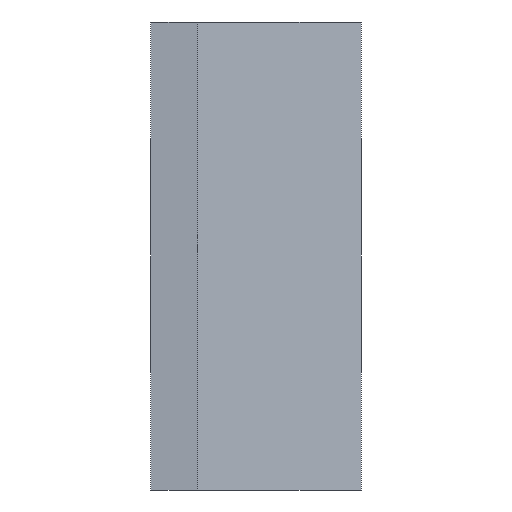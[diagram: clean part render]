
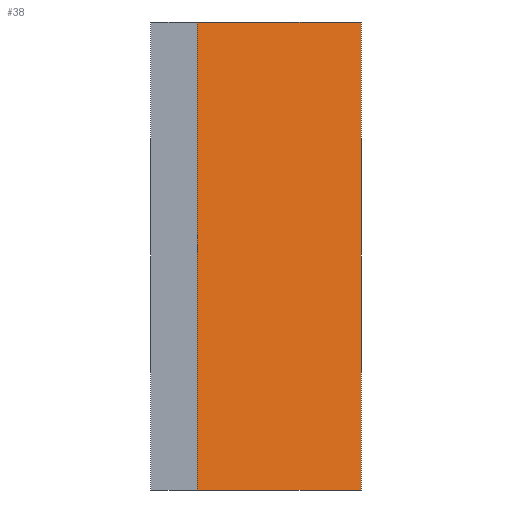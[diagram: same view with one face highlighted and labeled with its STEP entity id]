
A CAD part, front view. The second image highlights one B-rep face of the part: STEP entity #38.
In plain terms, the highlighted planar face has unit normal (0.496, -0.868, 0) as drawn and (0.496, 0.868, 0) by its records, which use the part's own axes.
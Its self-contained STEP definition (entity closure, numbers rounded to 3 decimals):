
#38=ADVANCED_FACE('',(#50),#428,.T.);
#50=FACE_OUTER_BOUND('',#63,.T.);
#63=EDGE_LOOP('',(#90,#91,#92,#93));
#90=ORIENTED_EDGE('',*,*,#303,.T.);
#91=ORIENTED_EDGE('',*,*,#304,.T.);
#92=ORIENTED_EDGE('',*,*,#305,.T.);
#93=ORIENTED_EDGE('',*,*,#299,.F.);
#151=PCURVE('',#427,#211);
#156=PCURVE('',#428,#216);
#157=PCURVE('',#428,#217);
#158=PCURVE('',#428,#218);
#159=PCURVE('',#428,#219);
#163=PCURVE('',#429,#223);
#177=PCURVE('',#432,#237);
#186=PCURVE('',#433,#246);
#211=DEFINITIONAL_REPRESENTATION('',(#343),#840);
#216=DEFINITIONAL_REPRESENTATION('',(#350),#840);
#217=DEFINITIONAL_REPRESENTATION('',(#352),#840);
#218=DEFINITIONAL_REPRESENTATION('',(#354),#840);
#219=DEFINITIONAL_REPRESENTATION('',(#355),#840);
#223=DEFINITIONAL_REPRESENTATION('',(#362),#840);
#237=DEFINITIONAL_REPRESENTATION('',(#381),#840);
#246=DEFINITIONAL_REPRESENTATION('',(#390),#840);
#269=SURFACE_CURVE('',#342,(#151,#159),.PCURVE_S1.);
#273=SURFACE_CURVE('',#349,(#156,#177),.PCURVE_S1.);
#274=SURFACE_CURVE('',#351,(#157,#163),.PCURVE_S1.);
#275=SURFACE_CURVE('',#353,(#158,#186),.PCURVE_S1.);
#299=EDGE_CURVE('',#410,#411,#269,.T.);
#303=EDGE_CURVE('',#410,#412,#273,.T.);
#304=EDGE_CURVE('',#412,#413,#274,.T.);
#305=EDGE_CURVE('',#413,#411,#275,.T.);
#342=B_SPLINE_CURVE_WITH_KNOTS('',1,(#625,#626),.UNSPECIFIED.,.F.,.F.,(2,
2),(0.,10.),.UNSPECIFIED.);
#343=B_SPLINE_CURVE_WITH_KNOTS('',1,(#627,#628),.UNSPECIFIED.,.F.,.F.,(2,
2),(0.,10.),.UNSPECIFIED.);
#349=B_SPLINE_CURVE_WITH_KNOTS('',1,(#683,#684),.UNSPECIFIED.,.F.,.F.,(2,
2),(-13.106,-9.),.UNSPECIFIED.);
#350=B_SPLINE_CURVE_WITH_KNOTS('',1,(#685,#686),.UNSPECIFIED.,.F.,.F.,(2,
2),(-13.106,-9.),.UNSPECIFIED.);
#351=B_SPLINE_CURVE_WITH_KNOTS('',1,(#687,#688),.UNSPECIFIED.,.F.,.F.,(2,
2),(0.,10.),.UNSPECIFIED.);
#352=B_SPLINE_CURVE_WITH_KNOTS('',1,(#689,#690),.UNSPECIFIED.,.F.,.F.,(2,
2),(0.,10.),.UNSPECIFIED.);
#353=B_SPLINE_CURVE_WITH_KNOTS('',1,(#691,#692),.UNSPECIFIED.,.F.,.F.,(2,
2),(9.,13.106),.UNSPECIFIED.);
#354=B_SPLINE_CURVE_WITH_KNOTS('',1,(#693,#694),.UNSPECIFIED.,.F.,.F.,(2,
2),(9.,13.106),.UNSPECIFIED.);
#355=B_SPLINE_CURVE_WITH_KNOTS('',1,(#695,#696),.UNSPECIFIED.,.F.,.F.,(2,
2),(0.,10.),.UNSPECIFIED.);
#362=B_SPLINE_CURVE_WITH_KNOTS('',1,(#709,#710),.UNSPECIFIED.,.F.,.F.,(2,
2),(0.,10.),.UNSPECIFIED.);
#381=B_SPLINE_CURVE_WITH_KNOTS('',1,(#791,#792),.UNSPECIFIED.,.F.,.F.,(2,
2),(-13.106,-9.),.UNSPECIFIED.);
#390=B_SPLINE_CURVE_WITH_KNOTS('',1,(#809,#810),.UNSPECIFIED.,.F.,.F.,(2,
2),(9.,13.106),.UNSPECIFIED.);
#410=VERTEX_POINT('',#565);
#411=VERTEX_POINT('',#566);
#412=VERTEX_POINT('',#567);
#413=VERTEX_POINT('',#568);
#427=PLANE('',#479);
#428=PLANE('',#480);
#429=PLANE('',#481);
#432=PLANE('',#484);
#433=PLANE('',#485);
#479=AXIS2_PLACEMENT_3D('',#514,#496,$);
#480=AXIS2_PLACEMENT_3D('',#515,#497,$);
#481=AXIS2_PLACEMENT_3D('',#516,#498,$);
#484=AXIS2_PLACEMENT_3D('',#519,#501,$);
#485=AXIS2_PLACEMENT_3D('',#520,#502,$);
#496=DIRECTION('',(1.,0.,0.));
#497=DIRECTION('',(0.496,0.868,0.));
#498=DIRECTION('',(-1.,0.,0.));
#501=DIRECTION('',(0.,0.,-1.));
#502=DIRECTION('',(0.,0.,1.));
#514=CARTESIAN_POINT('',(4.5,-3.,-5.));
#515=CARTESIAN_POINT('',(4.5,3.,-5.));
#516=CARTESIAN_POINT('',(1.,5.,-5.));
#519=CARTESIAN_POINT('',(5.063,6.25,-5.));
#520=CARTESIAN_POINT('',(5.063,6.25,5.));
#565=CARTESIAN_POINT('',(4.5,3.,-5.));
#566=CARTESIAN_POINT('',(4.5,3.,5.));
#567=CARTESIAN_POINT('',(1.,5.,-5.));
#568=CARTESIAN_POINT('',(1.,5.,5.));
#625=CARTESIAN_POINT('',(4.5,3.,-5.));
#626=CARTESIAN_POINT('',(4.5,3.,5.));
#627=CARTESIAN_POINT('',(-13.106,0.));
#628=CARTESIAN_POINT('',(-13.106,10.));
#683=CARTESIAN_POINT('',(4.5,3.,-5.));
#684=CARTESIAN_POINT('',(1.,5.,-5.));
#685=CARTESIAN_POINT('',(-13.106,0.));
#686=CARTESIAN_POINT('',(-9.,0.));
#687=CARTESIAN_POINT('',(1.,5.,-5.));
#688=CARTESIAN_POINT('',(1.,5.,5.));
#689=CARTESIAN_POINT('',(-9.,0.));
#690=CARTESIAN_POINT('',(-9.,10.));
#691=CARTESIAN_POINT('',(1.,5.,5.));
#692=CARTESIAN_POINT('',(4.5,3.,5.));
#693=CARTESIAN_POINT('',(-9.,10.));
#694=CARTESIAN_POINT('',(-13.106,10.));
#695=CARTESIAN_POINT('',(-13.106,0.));
#696=CARTESIAN_POINT('',(-13.106,10.));
#709=CARTESIAN_POINT('',(-9.,0.));
#710=CARTESIAN_POINT('',(-9.,10.));
#791=CARTESIAN_POINT('',(-6.,-4.5));
#792=CARTESIAN_POINT('',(-8.,-1.));
#809=CARTESIAN_POINT('',(-1.,-8.));
#810=CARTESIAN_POINT('',(-4.5,-6.));
#840=(
GEOMETRIC_REPRESENTATION_CONTEXT(2)
PARAMETRIC_REPRESENTATION_CONTEXT()
REPRESENTATION_CONTEXT('pspace','')
);
